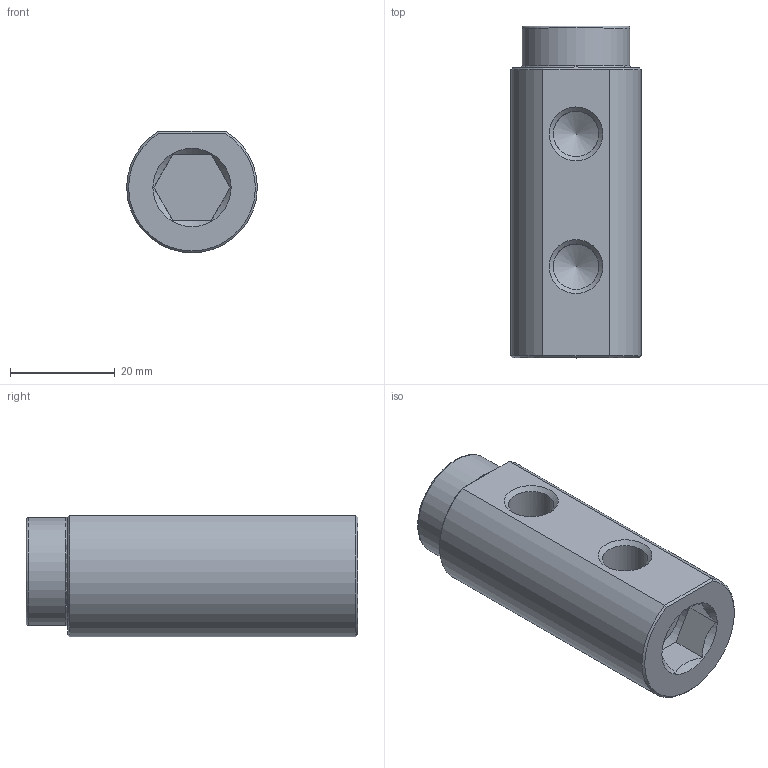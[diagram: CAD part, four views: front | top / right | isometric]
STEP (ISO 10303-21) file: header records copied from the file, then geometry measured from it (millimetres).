
FILE_DESCRIPTION(/* description */ (''),/* implementation_level */ '2;1');
FILE_NAME(/* name */ 'C:/Users/drich/Desktop/E141H v3.step',/* time_stamp */ '2019-11-18T13:43:01-06:00',/* author */ (''),/* organization */ (''),/* preprocessor_version */ 'ST-DEVELOPER v18',/* originating_system */ 'Autodesk Translation Framework v8.12.0.6',/* authorisation */ '');
FILE_SCHEMA (('AUTOMOTIVE_DESIGN { 1 0 10303 214 3 1 1 }'));
Length unit declared in the file: inch
Products named in the file (2): E141H; E141H-4
Assembly tree (1 placements, depth 2):
  E141H
    E141H-4
Bounding box: 25.02 x 63.5 x 23.29 mm (x, y, z)
Volume: 23016.6 mm3; surface area: 7930.4 mm2
Topology: 1 solids, 1 shells, 44 faces, 113 edges, 71 vertices
Faces by surface type: plane 20, cone 12, cylinder 9, torus 2, bspline 1
Full cylindrical faces by diameter (mm): 6.909 x1, 8.707 x3, 9.525 x1, 11.668 x1, 14.665 x1, 20.625 x1
Entity records: 1608 total; most frequent: CARTESIAN_POINT 529, ORIENTED_EDGE 222, DIRECTION 207, EDGE_CURVE 111, AXIS2_PLACEMENT_3D 84, VERTEX_POINT 71, EDGE_LOOP 50, FACE_OUTER_BOUND 44
